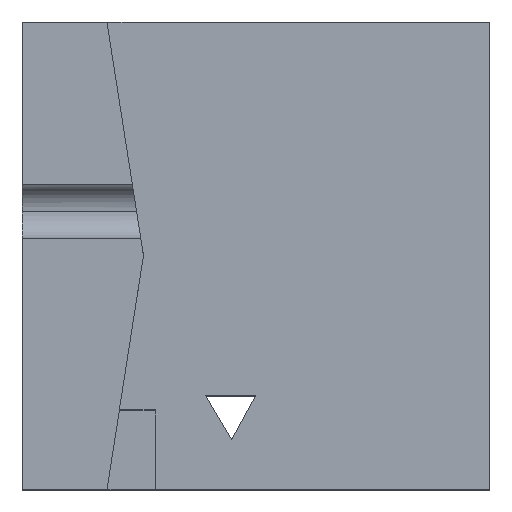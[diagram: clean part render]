
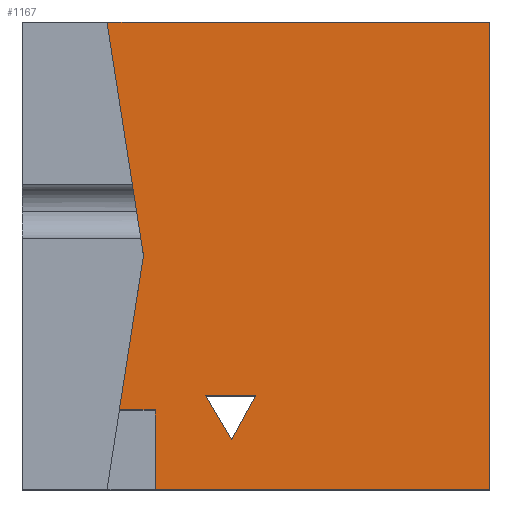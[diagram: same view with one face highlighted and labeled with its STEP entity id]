
A CAD part, top view. The second image highlights one B-rep face of the part: STEP entity #1167.
In plain terms, the highlighted planar face has unit normal (0, 0, 1).
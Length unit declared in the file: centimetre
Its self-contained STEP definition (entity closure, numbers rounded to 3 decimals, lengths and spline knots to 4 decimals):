
#35 = EDGE_CURVE ( 'NONE', #807, #63, #1042, .T. ) ;
#42 = LINE ( 'NONE', #1361, #47 ) ;
#47 = VECTOR ( 'NONE', #255, 100. ) ;
#59 = ORIENTED_EDGE ( 'NONE', *, *, #929, .T. ) ;
#63 = VERTEX_POINT ( 'NONE', #548 ) ;
#64 = FACE_OUTER_BOUND ( 'NONE', #350, .T. ) ;
#65 = DIRECTION ( 'NONE',  ( 0.154, 0.988, 0. ) ) ;
#99 = VECTOR ( 'NONE', #837, 100. ) ;
#101 = CARTESIAN_POINT ( 'NONE',  ( 181.1069, 1000., 1000. ) ) ;
#105 = VERTEX_POINT ( 'NONE', #918 ) ;
#122 = VECTOR ( 'NONE', #303, 100. ) ;
#141 = LINE ( 'NONE', #268, #1155 ) ;
#142 = VECTOR ( 'NONE', #390, 100. ) ;
#162 = CARTESIAN_POINT ( 'NONE',  ( 207.6338, 169.7829, 1000. ) ) ;
#192 = AXIS2_PLACEMENT_3D ( 'NONE', #1511, #1256, #1126 ) ;
#246 = VERTEX_POINT ( 'NONE', #347 ) ;
#255 = DIRECTION ( 'NONE',  ( -1., 0., 0. ) ) ;
#266 = EDGE_CURVE ( 'NONE', #874, #246, #939, .T. ) ;
#268 = CARTESIAN_POINT ( 'NONE',  ( 168.6358, 169.7829, 1000. ) ) ;
#303 = DIRECTION ( 'NONE',  ( -1., 0., 0. ) ) ;
#313 = ORIENTED_EDGE ( 'NONE', *, *, #1238, .T. ) ;
#336 = VERTEX_POINT ( 'NONE', #1001 ) ;
#347 = CARTESIAN_POINT ( 'NONE',  ( 1000., 0., 1000. ) ) ;
#350 = EDGE_LOOP ( 'NONE', ( #500, #1350, #313, #59, #1200, #354, #461 ) ) ;
#354 = ORIENTED_EDGE ( 'NONE', *, *, #35, .F. ) ;
#363 = CARTESIAN_POINT ( 'NONE',  ( 391.8237, 200.9595, 1000. ) ) ;
#370 = CARTESIAN_POINT ( 'NONE',  ( 181.1069, 1000., 1000. ) ) ;
#376 = LINE ( 'NONE', #1498, #142 ) ;
#390 = DIRECTION ( 'NONE',  ( 0.479, 0.878, 0. ) ) ;
#407 = CARTESIAN_POINT ( 'NONE',  ( 1000., 1000., 1000. ) ) ;
#461 = ORIENTED_EDGE ( 'NONE', *, *, #1320, .F. ) ;
#463 = VERTEX_POINT ( 'NONE', #1337 ) ;
#500 = ORIENTED_EDGE ( 'NONE', *, *, #1023, .T. ) ;
#508 = CARTESIAN_POINT ( 'NONE',  ( 284.5525, 0., 1000. ) ) ;
#517 = DIRECTION ( 'NONE',  ( -1., 0., 0. ) ) ;
#540 = EDGE_CURVE ( 'NONE', #63, #1420, #1190, .T. ) ;
#548 = CARTESIAN_POINT ( 'NONE',  ( 259.2269, 500., 1000. ) ) ;
#637 = ORIENTED_EDGE ( 'NONE', *, *, #698, .F. ) ;
#644 = VERTEX_POINT ( 'NONE', #363 ) ;
#646 = ORIENTED_EDGE ( 'NONE', *, *, #1338, .F. ) ;
#654 = PLANE ( 'NONE',  #192 ) ;
#667 = LINE ( 'NONE', #895, #751 ) ;
#677 = FACE_BOUND ( 'NONE', #705, .T. ) ;
#681 = VERTEX_POINT ( 'NONE', #857 ) ;
#698 = EDGE_CURVE ( 'NONE', #463, #644, #42, .T. ) ;
#705 = EDGE_LOOP ( 'NONE', ( #1436, #637, #646 ) ) ;
#710 = CARTESIAN_POINT ( 'NONE',  ( 0., 0., 1000. ) ) ;
#715 = DIRECTION ( 'NONE',  ( 0.51, -0.86, 0. ) ) ;
#727 = VECTOR ( 'NONE', #1065, 100. ) ;
#751 = VECTOR ( 'NONE', #1150, 100. ) ;
#807 = VERTEX_POINT ( 'NONE', #162 ) ;
#821 = VECTOR ( 'NONE', #715, 100. ) ;
#837 = DIRECTION ( 'NONE',  ( 0., 1., 0. ) ) ;
#857 = CARTESIAN_POINT ( 'NONE',  ( 1000., 1000., 1000. ) ) ;
#874 = VERTEX_POINT ( 'NONE', #508 ) ;
#878 = LINE ( 'NONE', #407, #99 ) ;
#895 = CARTESIAN_POINT ( 'NONE',  ( 284.5525, 169.7829, 1000. ) ) ;
#918 = CARTESIAN_POINT ( 'NONE',  ( 447.8779, 106.46, 1000. ) ) ;
#929 = EDGE_CURVE ( 'NONE', #681, #1420, #1024, .T. ) ;
#939 = LINE ( 'NONE', #710, #1340 ) ;
#987 = VECTOR ( 'NONE', #65, 100. ) ;
#1001 = CARTESIAN_POINT ( 'NONE',  ( 284.5525, 169.7829, 1000. ) ) ;
#1023 = EDGE_CURVE ( 'NONE', #336, #874, #667, .T. ) ;
#1024 = LINE ( 'NONE', #1421, #122 ) ;
#1042 = LINE ( 'NONE', #1391, #987 ) ;
#1065 = DIRECTION ( 'NONE',  ( -0.154, 0.988, 0. ) ) ;
#1087 = EDGE_CURVE ( 'NONE', #644, #105, #1198, .T. ) ;
#1126 = DIRECTION ( 'NONE',  ( 1., 0., 0. ) ) ;
#1150 = DIRECTION ( 'NONE',  ( 0., -1., 0. ) ) ;
#1155 = VECTOR ( 'NONE', #517, 100. ) ;
#1167 = ADVANCED_FACE ( 'NONE', ( #64, #677 ), #654, .T. ) ;
#1180 = CARTESIAN_POINT ( 'NONE',  ( 391.8237, 200.9595, 1000. ) ) ;
#1190 = LINE ( 'NONE', #101, #727 ) ;
#1195 = DIRECTION ( 'NONE',  ( 1., 0., 0. ) ) ;
#1198 = LINE ( 'NONE', #1180, #821 ) ;
#1200 = ORIENTED_EDGE ( 'NONE', *, *, #540, .F. ) ;
#1238 = EDGE_CURVE ( 'NONE', #246, #681, #878, .T. ) ;
#1256 = DIRECTION ( 'NONE',  ( 0., 0., 1. ) ) ;
#1320 = EDGE_CURVE ( 'NONE', #336, #807, #141, .T. ) ;
#1337 = CARTESIAN_POINT ( 'NONE',  ( 499.4473, 200.9595, 1000. ) ) ;
#1338 = EDGE_CURVE ( 'NONE', #105, #463, #376, .T. ) ;
#1340 = VECTOR ( 'NONE', #1195, 100. ) ;
#1350 = ORIENTED_EDGE ( 'NONE', *, *, #266, .T. ) ;
#1361 = CARTESIAN_POINT ( 'NONE',  ( 499.4473, 200.9595, 1000. ) ) ;
#1391 = CARTESIAN_POINT ( 'NONE',  ( 259.2269, 500., 1000. ) ) ;
#1420 = VERTEX_POINT ( 'NONE', #370 ) ;
#1421 = CARTESIAN_POINT ( 'NONE',  ( 0., 1000., 1000. ) ) ;
#1436 = ORIENTED_EDGE ( 'NONE', *, *, #1087, .F. ) ;
#1498 = CARTESIAN_POINT ( 'NONE',  ( 447.8779, 106.46, 1000. ) ) ;
#1511 = CARTESIAN_POINT ( 'NONE',  ( 0., 0., 1000. ) ) ;
